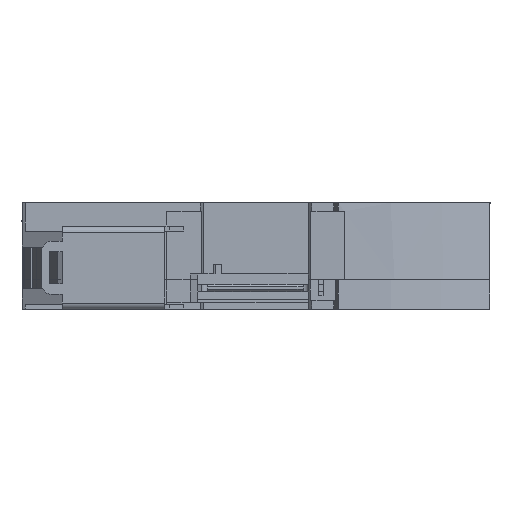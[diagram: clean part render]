
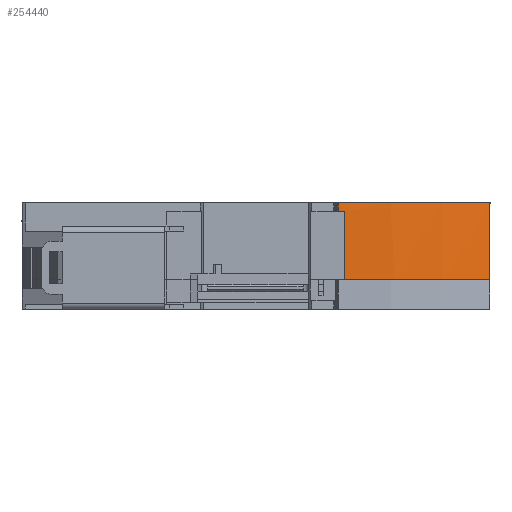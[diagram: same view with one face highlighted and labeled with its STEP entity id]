
A CAD part, front view. The second image highlights one B-rep face of the part: STEP entity #254440.
In plain terms, the highlighted cylindrical face has radius 80 mm (diameter 160 mm), a partial arc.
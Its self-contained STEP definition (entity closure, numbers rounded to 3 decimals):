
#192140=CARTESIAN_POINT('',(18.7,26.719,
-2.5));
#192150=VERTEX_POINT('',#192140);
#192320=CARTESIAN_POINT('',(18.7,26.719,
11.9));
#192330=VERTEX_POINT('',#192320);
#192360=CARTESIAN_POINT('',(18.7,26.719,
3.3));
#192370=DIRECTION('',(0.,0.,-1.));
#192380=VECTOR('',#192370,1.);
#192390=LINE('',#192360,#192380);
#192400=EDGE_CURVE('',#192330,#192150,#192390,.T.);
#213260=CARTESIAN_POINT('',(17.405,26.645,
11.9));
#213270=VERTEX_POINT('',#213260);
#213300=CARTESIAN_POINT('',(13.5,106.55,
11.9));
#213310=DIRECTION('',(0.,0.,-1.));
#213320=DIRECTION('',(-1.,0.,0.));
#213330=AXIS2_PLACEMENT_3D('',#213300,#213310,#213320);
#213340=CIRCLE('',#213330,80.);
#213350=EDGE_CURVE('',#192330,#213270,#213340,.T.);
#235090=CARTESIAN_POINT('',(17.405,26.645,
13.8));
#235100=VERTEX_POINT('',#235090);
#235130=CARTESIAN_POINT('',(17.405,26.645,
3.3));
#235140=DIRECTION('',(0.,0.,-1.));
#235150=VECTOR('',#235140,1.);
#235160=LINE('',#235130,#235150);
#235170=EDGE_CURVE('',#235100,#213270,#235160,.T.);
#246550=CARTESIAN_POINT('',(13.5,106.55,
-2.5));
#246560=DIRECTION('',(0.,0.,-1.));
#246570=DIRECTION('',(-1.,0.,0.));
#246580=AXIS2_PLACEMENT_3D('',#246550,#246560,#246570);
#246590=CIRCLE('',#246580,80.);
#246600=CARTESIAN_POINT('',(49.5,35.108,
-2.5));
#246610=VERTEX_POINT('',#246600);
#246620=EDGE_CURVE('',#246610,#192150,#246590,.T.);
#254180=CARTESIAN_POINT('',(13.5,106.55,
3.3));
#254190=DIRECTION('',(0.,0.,-1.));
#254200=DIRECTION('',(-1.,0.,0.));
#254210=AXIS2_PLACEMENT_3D('',#254180,#254190,#254200);
#254220=CYLINDRICAL_SURFACE('',#254210,80.);
#254230=ORIENTED_EDGE('',*,*,#246620,.F.);
#254240=ORIENTED_EDGE('',*,*,#192400,.T.);
#254250=ORIENTED_EDGE('',*,*,#213350,.F.);
#254260=ORIENTED_EDGE('',*,*,#235170,.T.);
#254270=CARTESIAN_POINT('',(13.5,106.55,
13.8));
#254280=DIRECTION('',(0.,0.,-1.));
#254290=DIRECTION('',(-1.,0.,0.));
#254300=AXIS2_PLACEMENT_3D('',#254270,#254280,#254290);
#254310=CIRCLE('',#254300,80.);
#254320=CARTESIAN_POINT('',(49.5,35.108,
13.8));
#254330=VERTEX_POINT('',#254320);
#254340=EDGE_CURVE('',#254330,#235100,#254310,.T.);
#254350=ORIENTED_EDGE('',*,*,#254340,.T.);
#254360=CARTESIAN_POINT('',(49.5,35.108,
3.3));
#254370=DIRECTION('',(0.,0.,-1.));
#254380=VECTOR('',#254370,1.);
#254390=LINE('',#254360,#254380);
#254400=EDGE_CURVE('',#254330,#246610,#254390,.T.);
#254410=ORIENTED_EDGE('',*,*,#254400,.F.);
#254420=EDGE_LOOP('',(#254410,#254350,#254260,#254250,#254240,#254230));
#254430=FACE_OUTER_BOUND('',#254420,.T.);
#254440=ADVANCED_FACE('',(#254430),#254220,.T.);
